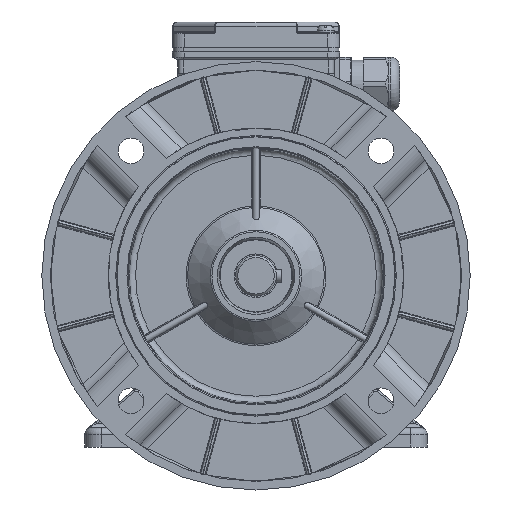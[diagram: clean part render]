
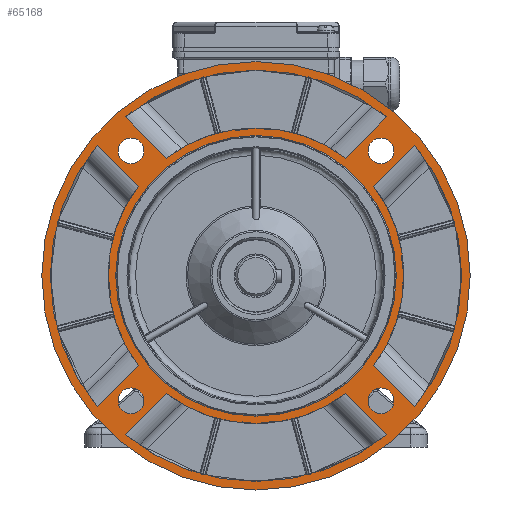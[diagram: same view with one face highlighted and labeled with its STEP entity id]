
A CAD part, left-side view. The second image highlights one B-rep face of the part: STEP entity #65168.
In plain terms, the highlighted planar face has unit normal (-1, 0, 0).
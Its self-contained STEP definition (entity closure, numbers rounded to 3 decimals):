
#2729=LINE('',#97186,#6442);
#2730=LINE('',#97191,#6443);
#2731=LINE('',#97194,#6444);
#2732=LINE('',#97199,#6445);
#2733=LINE('',#97204,#6446);
#2734=LINE('',#97209,#6447);
#2735=LINE('',#97212,#6448);
#2736=LINE('',#97217,#6449);
#6442=VECTOR('',#76796,1000.);
#6443=VECTOR('',#76799,1000.);
#6444=VECTOR('',#76802,1000.);
#6445=VECTOR('',#76805,1000.);
#6446=VECTOR('',#76810,1000.);
#6447=VECTOR('',#76813,1000.);
#6448=VECTOR('',#76816,1000.);
#6449=VECTOR('',#76819,1000.);
#9687=PLANE('',#68698);
#16282=ORIENTED_EDGE('',*,*,#27602,.T.);
#16283=ORIENTED_EDGE('',*,*,#27603,.T.);
#16284=ORIENTED_EDGE('',*,*,#27604,.T.);
#16285=ORIENTED_EDGE('',*,*,#27605,.T.);
#16286=ORIENTED_EDGE('',*,*,#27606,.T.);
#16287=ORIENTED_EDGE('',*,*,#27607,.T.);
#16288=ORIENTED_EDGE('',*,*,#27608,.T.);
#16289=ORIENTED_EDGE('',*,*,#27609,.T.);
#16290=ORIENTED_EDGE('',*,*,#27564,.F.);
#16291=ORIENTED_EDGE('',*,*,#27563,.F.);
#16292=ORIENTED_EDGE('',*,*,#27562,.F.);
#16293=ORIENTED_EDGE('',*,*,#27561,.F.);
#16294=ORIENTED_EDGE('',*,*,#27610,.T.);
#16295=ORIENTED_EDGE('',*,*,#27601,.T.);
#16296=ORIENTED_EDGE('',*,*,#27611,.T.);
#16297=ORIENTED_EDGE('',*,*,#27612,.T.);
#16298=ORIENTED_EDGE('',*,*,#27613,.T.);
#16299=ORIENTED_EDGE('',*,*,#27614,.T.);
#16300=ORIENTED_EDGE('',*,*,#27615,.T.);
#16301=ORIENTED_EDGE('',*,*,#27616,.T.);
#16302=ORIENTED_EDGE('',*,*,#27617,.T.);
#16303=ORIENTED_EDGE('',*,*,#27618,.T.);
#27561=EDGE_CURVE('',#33669,#33669,#37345,.T.);
#27562=EDGE_CURVE('',#33670,#33670,#37346,.T.);
#27563=EDGE_CURVE('',#33671,#33671,#37347,.T.);
#27564=EDGE_CURVE('',#33672,#33672,#37348,.T.);
#27601=EDGE_CURVE('',#33693,#33693,#37358,.T.);
#27602=EDGE_CURVE('',#33694,#33695,#2729,.T.);
#27603=EDGE_CURVE('',#33695,#33696,#37359,.T.);
#27604=EDGE_CURVE('',#33696,#33697,#2730,.T.);
#27605=EDGE_CURVE('',#33697,#33694,#37360,.T.);
#27606=EDGE_CURVE('',#33698,#33699,#2731,.T.);
#27607=EDGE_CURVE('',#33699,#33700,#37361,.T.);
#27608=EDGE_CURVE('',#33700,#33701,#2732,.T.);
#27609=EDGE_CURVE('',#33701,#33698,#37362,.T.);
#27610=EDGE_CURVE('',#33702,#33702,#37363,.F.);
#27611=EDGE_CURVE('',#33703,#33704,#2733,.T.);
#27612=EDGE_CURVE('',#33704,#33705,#37364,.T.);
#27613=EDGE_CURVE('',#33705,#33706,#2734,.T.);
#27614=EDGE_CURVE('',#33706,#33703,#37365,.T.);
#27615=EDGE_CURVE('',#33707,#33708,#2735,.T.);
#27616=EDGE_CURVE('',#33708,#33709,#37366,.T.);
#27617=EDGE_CURVE('',#33709,#33710,#2736,.T.);
#27618=EDGE_CURVE('',#33710,#33707,#37367,.T.);
#33669=VERTEX_POINT('',#97028);
#33670=VERTEX_POINT('',#97031);
#33671=VERTEX_POINT('',#97034);
#33672=VERTEX_POINT('',#97037);
#33693=VERTEX_POINT('',#97184);
#33694=VERTEX_POINT('',#97187);
#33695=VERTEX_POINT('',#97188);
#33696=VERTEX_POINT('',#97190);
#33697=VERTEX_POINT('',#97192);
#33698=VERTEX_POINT('',#97195);
#33699=VERTEX_POINT('',#97196);
#33700=VERTEX_POINT('',#97198);
#33701=VERTEX_POINT('',#97200);
#33702=VERTEX_POINT('',#97203);
#33703=VERTEX_POINT('',#97205);
#33704=VERTEX_POINT('',#97206);
#33705=VERTEX_POINT('',#97208);
#33706=VERTEX_POINT('',#97210);
#33707=VERTEX_POINT('',#97213);
#33708=VERTEX_POINT('',#97214);
#33709=VERTEX_POINT('',#97216);
#33710=VERTEX_POINT('',#97218);
#37345=CIRCLE('',#68662,6.);
#37346=CIRCLE('',#68664,6.);
#37347=CIRCLE('',#68666,6.);
#37348=CIRCLE('',#68668,6.);
#37358=CIRCLE('',#68697,100.);
#37359=CIRCLE('',#68699,69.);
#37360=CIRCLE('',#68700,96.);
#37361=CIRCLE('',#68701,69.);
#37362=CIRCLE('',#68702,96.);
#37363=CIRCLE('',#68703,65.5);
#37364=CIRCLE('',#68704,69.);
#37365=CIRCLE('',#68705,96.);
#37366=CIRCLE('',#68706,69.);
#37367=CIRCLE('',#68707,96.);
#39809=EDGE_LOOP('',(#16282,#16283,#16284,#16285));
#39810=EDGE_LOOP('',(#16286,#16287,#16288,#16289));
#39811=EDGE_LOOP('',(#16290));
#39812=EDGE_LOOP('',(#16291));
#39813=EDGE_LOOP('',(#16292));
#39814=EDGE_LOOP('',(#16293));
#39815=EDGE_LOOP('',(#16294));
#39816=EDGE_LOOP('',(#16295));
#39817=EDGE_LOOP('',(#16296,#16297,#16298,#16299));
#39818=EDGE_LOOP('',(#16300,#16301,#16302,#16303));
#42941=FACE_BOUND('',#39809,.T.);
#42942=FACE_BOUND('',#39810,.T.);
#42943=FACE_BOUND('',#39811,.T.);
#42944=FACE_BOUND('',#39812,.T.);
#42945=FACE_BOUND('',#39813,.T.);
#42946=FACE_BOUND('',#39814,.T.);
#42947=FACE_BOUND('',#39815,.T.);
#42948=FACE_BOUND('',#39816,.T.);
#42949=FACE_BOUND('',#39817,.T.);
#42950=FACE_BOUND('',#39818,.T.);
#65168=ADVANCED_FACE('',(#42941,#42942,#42943,#42944,#42945,#42946,#42947,
#42948,#42949,#42950),#9687,.T.);
#68662=AXIS2_PLACEMENT_3D('',#97027,#76706,#76707);
#68664=AXIS2_PLACEMENT_3D('',#97030,#76710,#76711);
#68666=AXIS2_PLACEMENT_3D('',#97033,#76714,#76715);
#68668=AXIS2_PLACEMENT_3D('',#97036,#76718,#76719);
#68697=AXIS2_PLACEMENT_3D('',#97183,#76792,#76793);
#68698=AXIS2_PLACEMENT_3D('',#97185,#76794,#76795);
#68699=AXIS2_PLACEMENT_3D('',#97189,#76797,#76798);
#68700=AXIS2_PLACEMENT_3D('',#97193,#76800,#76801);
#68701=AXIS2_PLACEMENT_3D('',#97197,#76803,#76804);
#68702=AXIS2_PLACEMENT_3D('',#97201,#76806,#76807);
#68703=AXIS2_PLACEMENT_3D('',#97202,#76808,#76809);
#68704=AXIS2_PLACEMENT_3D('',#97207,#76811,#76812);
#68705=AXIS2_PLACEMENT_3D('',#97211,#76814,#76815);
#68706=AXIS2_PLACEMENT_3D('',#97215,#76817,#76818);
#68707=AXIS2_PLACEMENT_3D('',#97219,#76820,#76821);
#76706=DIRECTION('',(-1.,0.,0.));
#76707=DIRECTION('',(0.,-1.,0.));
#76710=DIRECTION('',(-1.,0.,0.));
#76711=DIRECTION('',(0.,-1.,0.));
#76714=DIRECTION('',(-1.,0.,0.));
#76715=DIRECTION('',(0.,-1.,0.));
#76718=DIRECTION('',(-1.,0.,0.));
#76719=DIRECTION('',(0.,-1.,0.));
#76792=DIRECTION('',(-1.,0.,0.));
#76793=DIRECTION('',(0.,0.,-1.));
#76794=DIRECTION('',(-1.,0.,0.));
#76795=DIRECTION('',(0.,0.,-1.));
#76796=DIRECTION('',(0.,-0.707,-0.707));
#76797=DIRECTION('',(-1.,0.,0.));
#76798=DIRECTION('',(0.,-1.,0.));
#76799=DIRECTION('',(0.,0.707,-0.707));
#76800=DIRECTION('',(1.,0.,0.));
#76801=DIRECTION('',(0.,-1.,0.));
#76802=DIRECTION('',(0.,0.707,0.707));
#76803=DIRECTION('',(-1.,0.,0.));
#76804=DIRECTION('',(0.,1.,0.));
#76805=DIRECTION('',(0.,-0.707,0.707));
#76806=DIRECTION('',(1.,0.,0.));
#76807=DIRECTION('',(0.,1.,0.));
#76808=DIRECTION('',(-1.,0.,0.));
#76809=DIRECTION('',(0.,0.,-1.));
#76810=DIRECTION('',(0.,-0.707,0.707));
#76811=DIRECTION('',(-1.,0.,0.));
#76812=DIRECTION('',(0.,0.,1.));
#76813=DIRECTION('',(0.,-0.707,-0.707));
#76814=DIRECTION('',(1.,0.,0.));
#76815=DIRECTION('',(0.,0.,1.));
#76816=DIRECTION('',(0.,0.707,-0.707));
#76817=DIRECTION('',(-1.,0.,0.));
#76818=DIRECTION('',(0.,0.,-1.));
#76819=DIRECTION('',(0.,0.707,0.707));
#76820=DIRECTION('',(1.,0.,0.));
#76821=DIRECTION('',(0.,0.,-1.));
#97027=CARTESIAN_POINT('',(-44.8,58.336,58.336));
#97028=CARTESIAN_POINT('',(-44.8,52.336,58.336));
#97030=CARTESIAN_POINT('',(-44.8,-58.336,58.336));
#97031=CARTESIAN_POINT('',(-44.8,-64.336,58.336));
#97033=CARTESIAN_POINT('',(-44.8,-58.336,-58.336));
#97034=CARTESIAN_POINT('',(-44.8,-64.336,-58.336));
#97036=CARTESIAN_POINT('',(-44.8,58.336,-58.336));
#97037=CARTESIAN_POINT('',(-44.8,52.336,-58.336));
#97183=CARTESIAN_POINT('',(-44.8,0.,0.));
#97184=CARTESIAN_POINT('',(-44.8,0.,-100.));
#97185=CARTESIAN_POINT('',(-44.8,0.,-65.));
#97186=CARTESIAN_POINT('',(-44.8,53.605,40.403));
#97187=CARTESIAN_POINT('',(-44.8,74.161,60.96));
#97188=CARTESIAN_POINT('',(-44.8,54.943,41.741));
#97189=CARTESIAN_POINT('',(-44.8,0.,0.));
#97190=CARTESIAN_POINT('',(-44.8,54.943,-41.741));
#97191=CARTESIAN_POINT('',(-44.8,73.211,-60.009));
#97192=CARTESIAN_POINT('',(-44.8,74.161,-60.96));
#97193=CARTESIAN_POINT('',(-44.8,0.,0.));
#97194=CARTESIAN_POINT('',(-44.8,-53.605,-40.403));
#97195=CARTESIAN_POINT('',(-44.8,-74.161,-60.96));
#97196=CARTESIAN_POINT('',(-44.8,-54.943,-41.741));
#97197=CARTESIAN_POINT('',(-44.8,0.,0.));
#97198=CARTESIAN_POINT('',(-44.8,-54.943,41.741));
#97199=CARTESIAN_POINT('',(-44.8,-73.211,60.009));
#97200=CARTESIAN_POINT('',(-44.8,-74.161,60.96));
#97201=CARTESIAN_POINT('',(-44.8,0.,0.));
#97202=CARTESIAN_POINT('',(-44.8,0.,0.));
#97203=CARTESIAN_POINT('',(-44.8,0.,-65.5));
#97204=CARTESIAN_POINT('',(-44.8,40.403,-53.605));
#97205=CARTESIAN_POINT('',(-44.8,60.96,-74.161));
#97206=CARTESIAN_POINT('',(-44.8,41.741,-54.943));
#97207=CARTESIAN_POINT('',(-44.8,0.,0.));
#97208=CARTESIAN_POINT('',(-44.8,-41.741,-54.943));
#97209=CARTESIAN_POINT('',(-44.8,-60.009,-73.211));
#97210=CARTESIAN_POINT('',(-44.8,-60.96,-74.161));
#97211=CARTESIAN_POINT('',(-44.8,0.,0.));
#97212=CARTESIAN_POINT('',(-44.8,-40.403,53.605));
#97213=CARTESIAN_POINT('',(-44.8,-60.96,74.161));
#97214=CARTESIAN_POINT('',(-44.8,-41.741,54.943));
#97215=CARTESIAN_POINT('',(-44.8,0.,0.));
#97216=CARTESIAN_POINT('',(-44.8,41.741,54.943));
#97217=CARTESIAN_POINT('',(-44.8,60.009,73.211));
#97218=CARTESIAN_POINT('',(-44.8,60.96,74.161));
#97219=CARTESIAN_POINT('',(-44.8,0.,0.));
